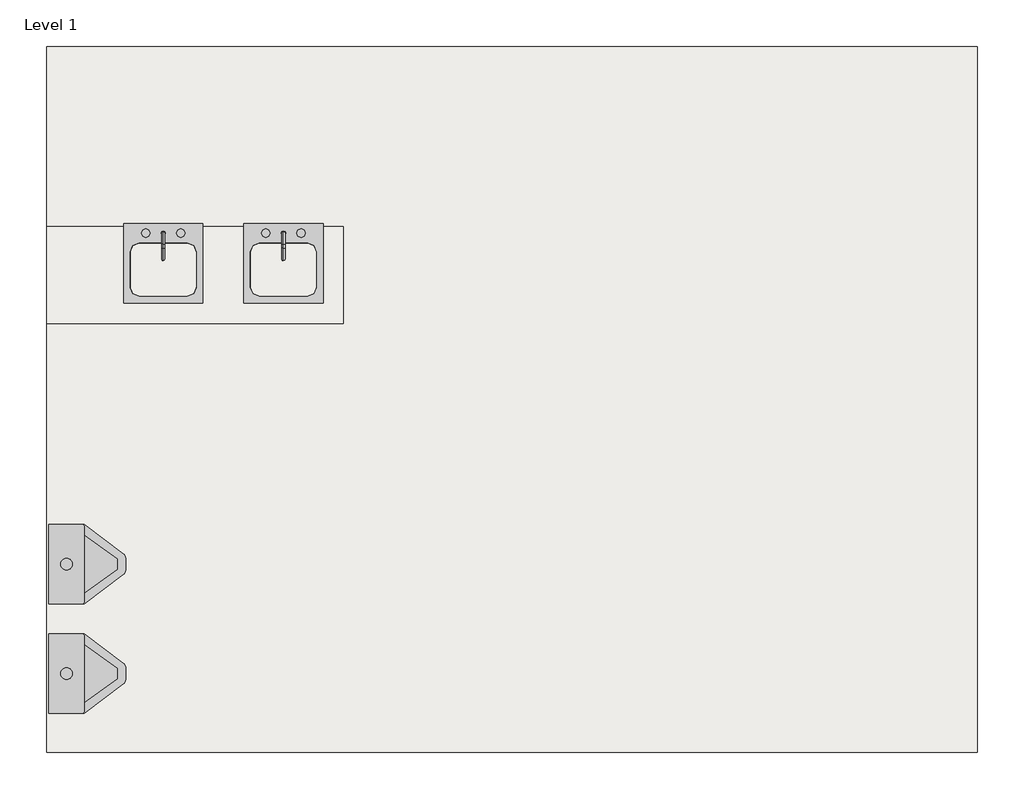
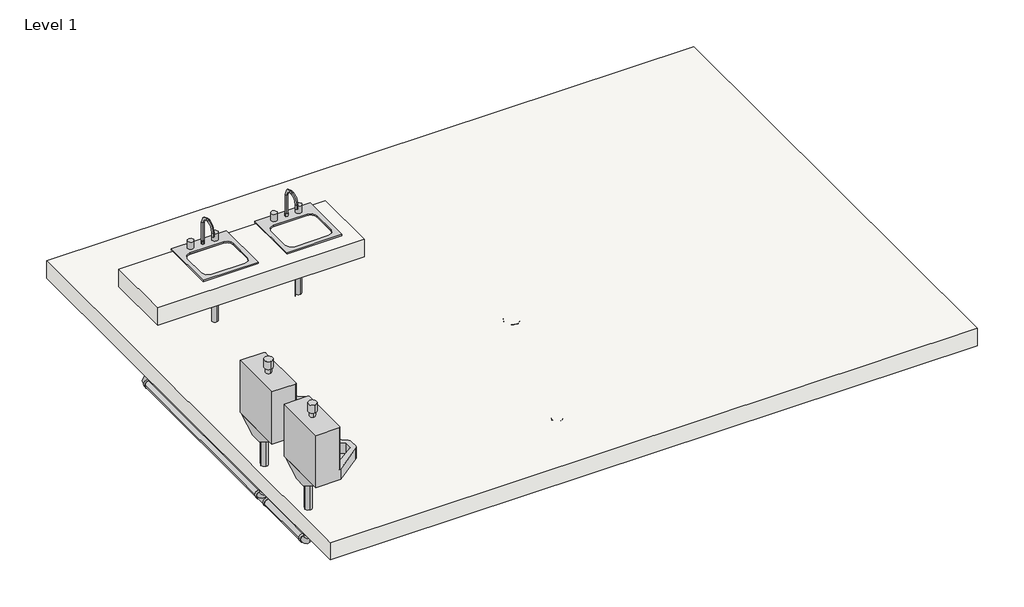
# One storey, incomplete: 12 pipe segments, 11 pipe fittings, 5 flow terminals, 2 slabs.
"""IFC4 building model written with IfcOpenShell, lengths in millimetres."""

from ifc_helpers import new_model, si_unit, point, frame, frame_2d, origin, place, context, project, spatial, polyline, circle_curve, trimmed, segment, composite_curve, outline, extrude, transform, mapped, element, save
from components import flow_terminal_accce45a, flow_terminal_ae45b8c9, flow_terminal_8e6902d4, bend_pvc_sch_40_dwv_standard_a4b99d37, bend_pvc_sch_40_dwv_standard_1eaeee76, bend_pvc_sch_40_dwv_standard_738aab8b, reducer_pvc_sch_40_dwv_standard_b23fa098, reducer_pvc_sch_40_dwv_standard_44865e00, tee_sanitary_pvc_sch_40_dwv_standard_097eae93

model = new_model("IFC4")

# Units and contexts
model_context = context("Model", 3, world=origin())
ifc_project = project(units=[si_unit("LENGTHUNIT", "METRE", prefix="MILLI")], contexts=[model_context])

# Site, building, storey
site = spatial("IfcSite", under=ifc_project)
building = spatial("IfcBuilding", under=site)
storey = spatial("IfcBuildingStorey", under=building, Name="Level 1", Elevation=0.0)

# Flow terminals
placement = place(None, origin())
flow_terminal_shape = flow_terminal_accce45a(model_context)
element("IfcFlowTerminal", 1, ObjectType="Floor Drain - Round : 5\" Strainer - 2\" Drain", at=placement, inside=storey, context=model_context, shape_type="MappedRepresentation", body=[
    mapped(flow_terminal_shape, transform((-13438.143061, -4215.4995085, 0.0), x_axis=(1.0, 0.0, 0.0), y_axis=(0.0, 1.0, 0.0), z_axis=(0.0, 0.0, 1.0))),
])
flow_terminal_2_shape = flow_terminal_ae45b8c9(model_context)
element("IfcFlowTerminal", 2, ObjectType="Sink - Island - Single : 18\"x18\" - Private", at=placement, inside=storey, context=model_context, shape_type="MappedRepresentation", body=[
    mapped(flow_terminal_2_shape, transform((-14595.9142616, -3154.8318016, 558.8), x_axis=(1.0, 0.0, 0.0), y_axis=(0.0, 1.0, 0.0), z_axis=(0.0, 0.0, 1.0))),
])
element("IfcFlowTerminal", 3, ObjectType="Sink - Island - Single : 18\"x18\" - Private", at=placement, inside=storey, context=model_context, shape_type="MappedRepresentation", body=[
    mapped(flow_terminal_2_shape, transform((-15289.8090231, -3154.8318016, 558.8), x_axis=(1.0, 0.0, 0.0), y_axis=(0.0, 1.0, 0.0), z_axis=(0.0, 0.0, 1.0))),
])
flow_terminal_3_shape = flow_terminal_8e6902d4(model_context)
element("IfcFlowTerminal", 4, ObjectType="Urinal - Wall Hung : 3/4\" Flush Valve", at=placement, inside=storey, context=model_context, shape_type="MappedRepresentation", body=[
    mapped(flow_terminal_3_shape, transform((-15951.155561, -5525.1548944, 431.8), x_axis=(0.0, 1.0, 0.0), y_axis=(0.0, 0.0, 1.0), z_axis=(1.0, 0.0, 0.0))),
])
element("IfcFlowTerminal", 5, ObjectType="Urinal - Wall Hung : 3/4\" Flush Valve", at=placement, inside=storey, context=model_context, shape_type="MappedRepresentation", body=[
    mapped(flow_terminal_3_shape, transform((-15951.155561, -4893.046936, 431.8), x_axis=(0.0, 1.0, 0.0), y_axis=(0.0, 0.0, 1.0), z_axis=(1.0, 0.0, 0.0))),
])

# Pipe fittings
bend_pvc_sch_40_dwv_standard_shape = bend_pvc_sch_40_dwv_standard_a4b99d37(model_context)
element("IfcPipeFitting", 6, ObjectType="Bend - PVC - Sch 40 - DWV : Standard", at=placement, inside=storey, context=model_context, shape_type="MappedRepresentation", body=[
    mapped(bend_pvc_sch_40_dwv_standard_shape, transform((-13771.069502, -5444.5918904, -304.8), x_axis=(0.0, 0.0, -1.0), y_axis=(1.0, 0.0, 0.0), z_axis=(0.0, -1.0, 0.0))),
])
bend_pvc_sch_40_dwv_standard_2_shape = bend_pvc_sch_40_dwv_standard_1eaeee76(model_context)
element("IfcPipeFitting", 7, ObjectType="Bend - PVC - Sch 40 - DWV : Standard", at=placement, inside=storey, context=model_context, shape_type="MappedRepresentation", body=[
    mapped(bend_pvc_sch_40_dwv_standard_2_shape, transform((-13438.143061, -4215.4995085, -304.8), x_axis=(0.0, 0.0, -1.0), y_axis=(0.0, -1.0, 0.0), z_axis=(-1.0, 0.0, 0.0))),
])
element("IfcPipeFitting", 8, ObjectType="Bend - PVC - Sch 40 - DWV : Standard", at=placement, inside=storey, context=model_context, shape_type="MappedRepresentation", body=[
    mapped(bend_pvc_sch_40_dwv_standard_2_shape, transform((-13438.143061, -5444.5918904, -304.8), x_axis=(1.0, 0.0, 0.0), y_axis=(0.0, 1.0, 0.0), z_axis=(0.0, 0.0, 1.0))),
])
element("IfcPipeFitting", 9, ObjectType="Bend - PVC - Sch 40 - DWV : Standard", at=placement, inside=storey, context=model_context, shape_type="MappedRepresentation", body=[
    mapped(bend_pvc_sch_40_dwv_standard_2_shape, transform((-15882.496186, -3154.8318016, -304.8), x_axis=(-1.0, 0.0, 0.0), y_axis=(0.0, -1.0, 0.0), z_axis=(0.0, 0.0, 1.0))),
])
element("IfcPipeFitting", 10, ObjectType="Bend - PVC - Sch 40 - DWV : Standard", at=placement, inside=storey, context=model_context, shape_type="MappedRepresentation", body=[
    mapped(bend_pvc_sch_40_dwv_standard_2_shape, transform((-15882.496186, -5525.1548944, -304.8), x_axis=(0.0, 0.0, -1.0), y_axis=(0.0, 1.0, 0.0), z_axis=(1.0, 0.0, 0.0))),
])
bend_pvc_sch_40_dwv_standard_3_shape = bend_pvc_sch_40_dwv_standard_738aab8b(model_context)
element("IfcPipeFitting", 11, ObjectType="Bend - PVC - Sch 40 - DWV : Standard", at=placement, inside=storey, context=model_context, shape_type="MappedRepresentation", body=[
    mapped(bend_pvc_sch_40_dwv_standard_3_shape, transform((-14595.9142616, -3154.8318016, -304.8), x_axis=(0.0, 0.0, -1.0), y_axis=(-1.0, 0.0, 0.0), z_axis=(0.0, 1.0, 0.0))),
])
reducer_pvc_sch_40_dwv_standard_shape = reducer_pvc_sch_40_dwv_standard_b23fa098(model_context)
element("IfcPipeFitting", 12, ObjectType="Reducer - PVC - Sch 40 - DWV : Standard", at=placement, inside=storey, context=model_context, shape_type="MappedRepresentation", body=[
    mapped(reducer_pvc_sch_40_dwv_standard_shape, transform((-15235.8340231, -3154.8318016, -304.8), x_axis=(1.0, 0.0, 0.0), y_axis=(0.0, 1.0, 0.0), z_axis=(0.0, 0.0, 1.0))),
])
element("IfcPipeFitting", 13, ObjectType="Reducer - PVC - Sch 40 - DWV : Standard", at=placement, inside=storey, context=model_context, shape_type="MappedRepresentation", body=[
    mapped(reducer_pvc_sch_40_dwv_standard_shape, transform((-15289.8090231, -3154.8318016, -226.9998), x_axis=(0.0, 0.0, 1.0), y_axis=(-1.0, 0.0, 0.0), z_axis=(0.0, -1.0, 0.0))),
])
reducer_pvc_sch_40_dwv_standard_2_shape = reducer_pvc_sch_40_dwv_standard_44865e00(model_context)
element("IfcPipeFitting", 14, ObjectType="Reducer - PVC - Sch 40 - DWV : Standard", at=placement, inside=storey, context=model_context, shape_type="MappedRepresentation", body=[
    mapped(reducer_pvc_sch_40_dwv_standard_2_shape, transform((-13515.943261, -5444.5918904, -304.8), x_axis=(-1.0, 0.0, 0.0), y_axis=(0.0, -1.0, 0.0), z_axis=(0.0, 0.0, 1.0))),
])
tee_sanitary_pvc_sch_40_dwv_standard_shape = tee_sanitary_pvc_sch_40_dwv_standard_097eae93(model_context)
element("IfcPipeFitting", 15, ObjectType="Tee Sanitary - PVC - Sch 40 - DWV : Standard", at=placement, inside=storey, context=model_context, shape_type="MappedRepresentation", body=[
    mapped(tee_sanitary_pvc_sch_40_dwv_standard_shape, transform((-15882.496186, -4893.046936, -304.8), x_axis=(0.0, -1.0, 0.0), y_axis=(0.0, 0.0, -1.0), z_axis=(1.0, 0.0, 0.0))),
])
element("IfcPipeFitting", 16, ObjectType="Tee Sanitary - PVC - Sch 40 - DWV : Standard", at=placement, inside=storey, context=model_context, shape_type="MappedRepresentation", body=[
    mapped(tee_sanitary_pvc_sch_40_dwv_standard_shape, transform((-15289.8090231, -3154.8318016, -304.8), x_axis=(1.0, 0.0, 0.0), y_axis=(0.0, 0.0, -1.0), z_axis=(0.0, 1.0, 0.0))),
])

# Pipe segments
element("IfcPipeSegment", 17, ObjectType="PVC - DWV", at=placement, inside=storey, context=model_context, shape_type="SweptSolid", body=[
    extrude(outline(composite_curve([segment(trimmed(circle_curve(frame_2d((-5444.5918904, -304.8)), 44.45), [point((-5489.0418904, -304.8))], [point((-5444.5918904, -260.35))], False, "CARTESIAN"), True, "CONTINUOUS"), segment(trimmed(circle_curve(frame_2d((-5444.5918904, -304.8)), 44.45), [point((-5444.5918904, -260.35))], [point((-5400.1418904, -304.8))], False, "CARTESIAN"), True, "CONTINUOUS"), segment(trimmed(circle_curve(frame_2d((-5444.5918904, -304.8)), 44.45), [point((-5400.1418904, -304.8))], [point((-5444.5918904, -349.25))], False, "CARTESIAN"), True, "CONTINUOUS"), segment(trimmed(circle_curve(frame_2d((-5444.5918904, -304.8)), 44.45), [point((-5444.5918904, -349.25))], [point((-5489.0418904, -304.8))], False, "CARTESIAN"), True, "CONTINUOUS")], self_intersect=False)), frame((-13655.169302, 0.0, 0.0), z_axis=(1.0, 0.0, 0.0), x_axis=(0.0, 1.0, 0.0)), (0.0, 0.0, 1.0), 59.851041),
])
element("IfcPipeSegment", 18, ObjectType="PVC - DWV", at=placement, inside=storey, context=model_context, shape_type="SweptSolid", body=[
    extrude(outline(composite_curve([segment(trimmed(circle_curve(frame_2d((-13771.069502, -5444.5918904)), 44.45), [point((-13726.619502, -5444.5918904))], [point((-13771.069502, -5489.0418904))], False, "CARTESIAN"), True, "CONTINUOUS"), segment(trimmed(circle_curve(frame_2d((-13771.069502, -5444.5918904)), 44.45), [point((-13771.069502, -5489.0418904))], [point((-13815.519502, -5444.5918904))], False, "CARTESIAN"), True, "CONTINUOUS"), segment(trimmed(circle_curve(frame_2d((-13771.069502, -5444.5918904)), 44.45), [point((-13815.519502, -5444.5918904))], [point((-13771.069502, -5400.1418904))], False, "CARTESIAN"), True, "CONTINUOUS"), segment(trimmed(circle_curve(frame_2d((-13771.069502, -5444.5918904)), 44.45), [point((-13771.069502, -5400.1418904))], [point((-13726.619502, -5444.5918904))], False, "CARTESIAN"), True, "CONTINUOUS")], self_intersect=False)), frame((0.0, 0.0, -188.8998), z_axis=(0.0, 0.0, 1.0), x_axis=(1.0, 0.0, 0.0)), (0.0, 0.0, 1.0), 188.8998),
])
element("IfcPipeSegment", 19, ObjectType="PVC - DWV", at=placement, inside=storey, context=model_context, shape_type="SweptSolid", body=[
    extrude(outline(composite_curve([segment(trimmed(circle_curve(frame_2d((-304.8, -13438.143061)), 30.1625), [point((-304.8, -13468.305561))], [point((-334.9625, -13438.143061))], False, "CARTESIAN"), True, "CONTINUOUS"), segment(trimmed(circle_curve(frame_2d((-304.8, -13438.143061)), 30.1625), [point((-334.9625, -13438.143061))], [point((-304.8, -13407.980561))], False, "CARTESIAN"), True, "CONTINUOUS"), segment(trimmed(circle_curve(frame_2d((-304.8, -13438.143061)), 30.1625), [point((-304.8, -13407.980561))], [point((-274.6375, -13438.143061))], False, "CARTESIAN"), True, "CONTINUOUS"), segment(trimmed(circle_curve(frame_2d((-304.8, -13438.143061)), 30.1625), [point((-274.6375, -13438.143061))], [point((-304.8, -13468.305561))], False, "CARTESIAN"), True, "CONTINUOUS")], self_intersect=False)), frame((0.0, -5366.7916904, 0.0), z_axis=(0.0, 1.0, 0.0), x_axis=(0.0, 0.0, 1.0)), (0.0, 0.0, 1.0), 1073.4919819),
])
element("IfcPipeSegment", 20, ObjectType="PVC - DWV", at=placement, inside=storey, context=model_context, shape_type="SweptSolid", body=[
    extrude(outline(composite_curve([segment(trimmed(circle_curve(frame_2d((-13438.143061, -4215.4995085)), 30.1625), [point((-13407.980561, -4215.4995085))], [point((-13438.143061, -4245.6620085))], False, "CARTESIAN"), True, "CONTINUOUS"), segment(trimmed(circle_curve(frame_2d((-13438.143061, -4215.4995085)), 30.1625), [point((-13438.143061, -4245.6620085))], [point((-13468.305561, -4215.4995085))], False, "CARTESIAN"), True, "CONTINUOUS"), segment(trimmed(circle_curve(frame_2d((-13438.143061, -4215.4995085)), 30.1625), [point((-13468.305561, -4215.4995085))], [point((-13438.143061, -4185.3370085))], False, "CARTESIAN"), True, "CONTINUOUS"), segment(trimmed(circle_curve(frame_2d((-13438.143061, -4215.4995085)), 30.1625), [point((-13438.143061, -4185.3370085))], [point((-13407.980561, -4215.4995085))], False, "CARTESIAN"), True, "CONTINUOUS")], self_intersect=False)), frame((0.0, 0.0, -226.9998), z_axis=(0.0, 0.0, 1.0), x_axis=(1.0, 0.0, 0.0)), (0.0, 0.0, 1.0), 52.3748),
])
element("IfcPipeSegment", 21, ObjectType="PVC - DWV", at=placement, inside=storey, context=model_context, shape_type="SweptSolid", body=[
    extrude(outline(composite_curve([segment(trimmed(circle_curve(frame_2d((-304.8, -15882.496186)), 30.1625), [point((-304.8, -15852.333686))], [point((-274.6375, -15882.496186))], False, "CARTESIAN"), True, "CONTINUOUS"), segment(trimmed(circle_curve(frame_2d((-304.8, -15882.496186)), 30.1625), [point((-274.6375, -15882.496186))], [point((-304.8, -15912.658686))], False, "CARTESIAN"), True, "CONTINUOUS"), segment(trimmed(circle_curve(frame_2d((-304.8, -15882.496186)), 30.1625), [point((-304.8, -15912.658686))], [point((-334.9625, -15882.496186))], False, "CARTESIAN"), True, "CONTINUOUS"), segment(trimmed(circle_curve(frame_2d((-304.8, -15882.496186)), 30.1625), [point((-334.9625, -15882.496186))], [point((-304.8, -15852.333686))], False, "CARTESIAN"), True, "CONTINUOUS")], self_intersect=False)), frame((0.0, -4815.246736, 0.0), z_axis=(0.0, 1.0, 0.0), x_axis=(0.0, 0.0, 1.0)), (0.0, 0.0, 1.0), 1582.6147344),
])
element("IfcPipeSegment", 22, ObjectType="PVC - DWV", at=placement, inside=storey, context=model_context, shape_type="SweptSolid", body=[
    extrude(outline(composite_curve([segment(trimmed(circle_curve(frame_2d((-3154.8318016, -304.8)), 30.1625), [point((-3184.9943016, -304.8))], [point((-3154.8318016, -274.6375))], False, "CARTESIAN"), True, "CONTINUOUS"), segment(trimmed(circle_curve(frame_2d((-3154.8318016, -304.8)), 30.1625), [point((-3154.8318016, -274.6375))], [point((-3124.6693016, -304.8))], False, "CARTESIAN"), True, "CONTINUOUS"), segment(trimmed(circle_curve(frame_2d((-3154.8318016, -304.8)), 30.1625), [point((-3124.6693016, -304.8))], [point((-3154.8318016, -334.9625))], False, "CARTESIAN"), True, "CONTINUOUS"), segment(trimmed(circle_curve(frame_2d((-3154.8318016, -304.8)), 30.1625), [point((-3154.8318016, -334.9625))], [point((-3184.9943016, -304.8))], False, "CARTESIAN"), True, "CONTINUOUS")], self_intersect=False)), frame((-15804.695986, 0.0, 0.0), z_axis=(1.0, 0.0, 0.0), x_axis=(0.0, 1.0, 0.0)), (0.0, 0.0, 1.0), 437.0867629),
])
element("IfcPipeSegment", 23, ObjectType="PVC - DWV", at=placement, inside=storey, context=model_context, shape_type="SweptSolid", body=[
    extrude(outline(composite_curve([segment(trimmed(circle_curve(frame_2d((-304.8, -15882.496186)), 30.1625), [point((-304.8, -15852.333686))], [point((-274.6375, -15882.496186))], False, "CARTESIAN"), True, "CONTINUOUS"), segment(trimmed(circle_curve(frame_2d((-304.8, -15882.496186)), 30.1625), [point((-274.6375, -15882.496186))], [point((-304.8, -15912.658686))], False, "CARTESIAN"), True, "CONTINUOUS"), segment(trimmed(circle_curve(frame_2d((-304.8, -15882.496186)), 30.1625), [point((-304.8, -15912.658686))], [point((-334.9625, -15882.496186))], False, "CARTESIAN"), True, "CONTINUOUS"), segment(trimmed(circle_curve(frame_2d((-304.8, -15882.496186)), 30.1625), [point((-334.9625, -15882.496186))], [point((-304.8, -15852.333686))], False, "CARTESIAN"), True, "CONTINUOUS")], self_intersect=False)), frame((0.0, -5447.3546944, 0.0), z_axis=(0.0, 1.0, 0.0), x_axis=(0.0, 0.0, 1.0)), (0.0, 0.0, 1.0), 500.3327584),
])
element("IfcPipeSegment", 24, ObjectType="PVC - DWV", at=placement, inside=storey, context=model_context, shape_type="SweptSolid", body=[
    extrude(outline(composite_curve([segment(trimmed(circle_curve(frame_2d((-15882.496186, -5525.1548944)), 30.1625), [point((-15852.333686, -5525.1548944))], [point((-15882.496186, -5555.3173944))], False, "CARTESIAN"), True, "CONTINUOUS"), segment(trimmed(circle_curve(frame_2d((-15882.496186, -5525.1548944)), 30.1625), [point((-15882.496186, -5555.3173944))], [point((-15912.658686, -5525.1548944))], False, "CARTESIAN"), True, "CONTINUOUS"), segment(trimmed(circle_curve(frame_2d((-15882.496186, -5525.1548944)), 30.1625), [point((-15912.658686, -5525.1548944))], [point((-15882.496186, -5494.9923944))], False, "CARTESIAN"), True, "CONTINUOUS"), segment(trimmed(circle_curve(frame_2d((-15882.496186, -5525.1548944)), 30.1625), [point((-15882.496186, -5494.9923944))], [point((-15852.333686, -5525.1548944))], False, "CARTESIAN"), True, "CONTINUOUS")], self_intersect=False)), frame((0.0, 0.0, -226.9998), z_axis=(0.0, 0.0, 1.0), x_axis=(1.0, 0.0, 0.0)), (0.0, 0.0, 1.0), 476.2373),
])
element("IfcPipeSegment", 25, ObjectType="PVC - DWV", at=placement, inside=storey, context=model_context, shape_type="SweptSolid", body=[
    extrude(outline(composite_curve([segment(trimmed(circle_curve(frame_2d((-15882.496186, -4893.046936)), 30.1625), [point((-15852.333686, -4893.046936))], [point((-15882.496186, -4923.209436))], False, "CARTESIAN"), True, "CONTINUOUS"), segment(trimmed(circle_curve(frame_2d((-15882.496186, -4893.046936)), 30.1625), [point((-15882.496186, -4923.209436))], [point((-15912.658686, -4893.046936))], False, "CARTESIAN"), True, "CONTINUOUS"), segment(trimmed(circle_curve(frame_2d((-15882.496186, -4893.046936)), 30.1625), [point((-15912.658686, -4893.046936))], [point((-15882.496186, -4862.884436))], False, "CARTESIAN"), True, "CONTINUOUS"), segment(trimmed(circle_curve(frame_2d((-15882.496186, -4893.046936)), 30.1625), [point((-15882.496186, -4862.884436))], [point((-15852.333686, -4893.046936))], False, "CARTESIAN"), True, "CONTINUOUS")], self_intersect=False)), frame((0.0, 0.0, -226.9998), z_axis=(0.0, 0.0, 1.0), x_axis=(1.0, 0.0, 0.0)), (0.0, 0.0, 1.0), 476.2373),
])
element("IfcPipeSegment", 26, ObjectType="PVC - DWV", at=placement, inside=storey, context=model_context, shape_type="SweptSolid", body=[
    extrude(outline(composite_curve([segment(trimmed(circle_curve(frame_2d((-15289.8090231, -3154.8318016)), 24.209375), [point((-15265.5996481, -3154.8318016))], [point((-15289.8090231, -3179.0411766))], False, "CARTESIAN"), True, "CONTINUOUS"), segment(trimmed(circle_curve(frame_2d((-15289.8090231, -3154.8318016)), 24.209375), [point((-15289.8090231, -3179.0411766))], [point((-15314.0183981, -3154.8318016))], False, "CARTESIAN"), True, "CONTINUOUS"), segment(trimmed(circle_curve(frame_2d((-15289.8090231, -3154.8318016)), 24.209375), [point((-15314.0183981, -3154.8318016))], [point((-15289.8090231, -3130.6224266))], False, "CARTESIAN"), True, "CONTINUOUS"), segment(trimmed(circle_curve(frame_2d((-15289.8090231, -3154.8318016)), 24.209375), [point((-15289.8090231, -3130.6224266))], [point((-15265.5996481, -3154.8318016))], False, "CARTESIAN"), True, "CONTINUOUS")], self_intersect=False)), frame((0.0, 0.0, -177.0126), z_axis=(0.0, 0.0, 1.0), x_axis=(1.0, 0.0, 0.0)), (0.0, 0.0, 1.0), 523.0876),
])
element("IfcPipeSegment", 27, ObjectType="PVC - DWV", at=placement, inside=storey, context=model_context, shape_type="SweptSolid", body=[
    extrude(outline(composite_curve([segment(trimmed(circle_curve(frame_2d((-3154.8318016, -304.8)), 24.209375), [point((-3130.6224266, -304.8))], [point((-3154.8318016, -329.009375))], False, "CARTESIAN"), True, "CONTINUOUS"), segment(trimmed(circle_curve(frame_2d((-3154.8318016, -304.8)), 24.209375), [point((-3154.8318016, -329.009375))], [point((-3179.0411766, -304.8))], False, "CARTESIAN"), True, "CONTINUOUS"), segment(trimmed(circle_curve(frame_2d((-3154.8318016, -304.8)), 24.209375), [point((-3179.0411766, -304.8))], [point((-3154.8318016, -280.590625))], False, "CARTESIAN"), True, "CONTINUOUS"), segment(trimmed(circle_curve(frame_2d((-3154.8318016, -304.8)), 24.209375), [point((-3154.8318016, -280.590625))], [point((-3130.6224266, -304.8))], False, "CARTESIAN"), True, "CONTINUOUS")], self_intersect=False)), frame((-15185.8468231, 0.0, 0.0), z_axis=(1.0, 0.0, 0.0), x_axis=(0.0, 1.0, 0.0)), (0.0, 0.0, 1.0), 528.0327615),
])
element("IfcPipeSegment", 28, ObjectType="PVC - DWV", at=placement, inside=storey, context=model_context, shape_type="SweptSolid", body=[
    extrude(outline(composite_curve([segment(trimmed(circle_curve(frame_2d((-14595.9142616, -3154.8318016)), 24.209375), [point((-14571.7048866, -3154.8318016))], [point((-14595.9142616, -3179.0411766))], False, "CARTESIAN"), True, "CONTINUOUS"), segment(trimmed(circle_curve(frame_2d((-14595.9142616, -3154.8318016)), 24.209375), [point((-14595.9142616, -3179.0411766))], [point((-14620.1236366, -3154.8318016))], False, "CARTESIAN"), True, "CONTINUOUS"), segment(trimmed(circle_curve(frame_2d((-14595.9142616, -3154.8318016)), 24.209375), [point((-14620.1236366, -3154.8318016))], [point((-14595.9142616, -3130.6224266))], False, "CARTESIAN"), True, "CONTINUOUS"), segment(trimmed(circle_curve(frame_2d((-14595.9142616, -3154.8318016)), 24.209375), [point((-14595.9142616, -3130.6224266))], [point((-14571.7048866, -3154.8318016))], False, "CARTESIAN"), True, "CONTINUOUS")], self_intersect=False)), frame((0.0, 0.0, -242.9002), z_axis=(0.0, 0.0, 1.0), x_axis=(1.0, 0.0, 0.0)), (0.0, 0.0, 1.0), 588.9752),
])

# Slabs
element("IfcSlab", 29, ObjectType="Generic -6\"", at=placement, inside=storey, context=model_context, shape_type="SweptSolid", body=[
    extrude(outline(polyline([(-10588.580561, -1902.1411222), (-10588.580561, -5980.4286222), (-15963.855561, -5980.4286222), (-15963.855561, -1902.1411222), (-10588.580561, -1902.1411222)])), frame((0.0, 0.0, -152.4), z_axis=(0.0, 0.0, 1.0), x_axis=(1.0, 0.0, 0.0)), (0.0, 0.0, 1.0), 152.4),
])
element("IfcSlab", 30, ObjectType="Generic -6\"", at=placement, inside=storey, context=model_context, shape_type="SweptSolid", body=[
    extrude(outline(polyline([(-14250.943061, -2943.5411222), (-14250.943061, -3502.3411222), (-15963.855561, -3502.3411222), (-15963.855561, -2943.5411222), (-14250.943061, -2943.5411222)])), frame((0.0, 0.0, 406.4), z_axis=(0.0, 0.0, 1.0), x_axis=(1.0, 0.0, 0.0)), (0.0, 0.0, 1.0), 152.4),
])

save(model, "model.ifc")
